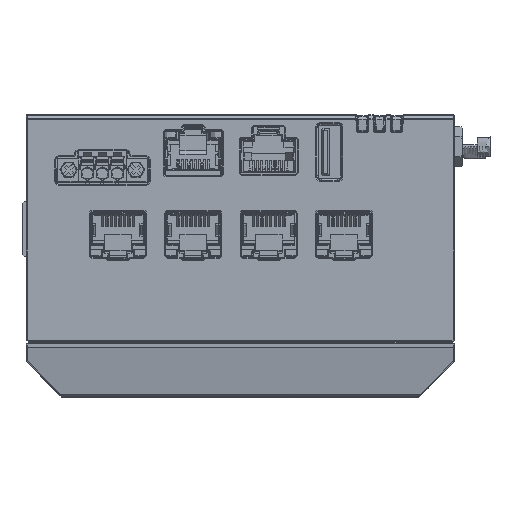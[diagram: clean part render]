
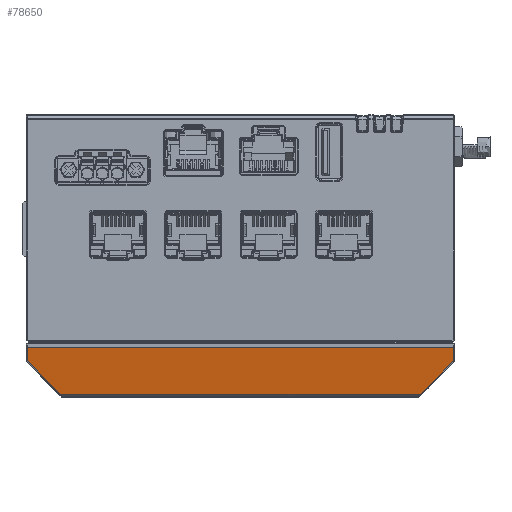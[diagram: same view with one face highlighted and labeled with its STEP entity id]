
A CAD part, top view. The second image highlights one B-rep face of the part: STEP entity #78650.
In plain terms, the highlighted planar face has unit normal (0, -0.171, 0.985).
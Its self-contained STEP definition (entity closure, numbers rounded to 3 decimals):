
#49915=DIRECTION('',(1.,0.,0.));
#49916=VECTOR('',#49915,84.063);
#49917=CARTESIAN_POINT('',(-42.031,-12.22,
28.101));
#49918=LINE('',#49917,#49916);
#59204=DIRECTION('',(0.,0.985,0.171));
#59205=VECTOR('',#59204,3.199);
#59206=CARTESIAN_POINT('',(49.8,-4.451,
29.452));
#59207=LINE('',#59206,#59205);
#59208=DIRECTION('',(0.702,0.702,0.122));
#59209=VECTOR('',#59208,11.069);
#59210=CARTESIAN_POINT('',(42.031,-12.22,
28.101));
#59211=LINE('',#59210,#59209);
#59212=DIRECTION('',(0.702,-0.702,-0.122));
#59213=VECTOR('',#59212,11.069);
#59214=CARTESIAN_POINT('',(-49.8,-4.451,
29.452));
#59215=LINE('',#59214,#59213);
#59216=DIRECTION('',(-1.,0.,0.));
#59217=VECTOR('',#59216,99.6);
#59218=CARTESIAN_POINT('',(49.8,-1.3,
30.));
#59219=LINE('',#59218,#59217);
#59235=DIRECTION('',(0.,-0.985,-0.171));
#59236=VECTOR('',#59235,3.199);
#59237=CARTESIAN_POINT('',(-49.8,-1.3,
30.));
#59238=LINE('',#59237,#59236);
#59470=CARTESIAN_POINT('',(49.8,-1.3,
30.));
#59472=VERTEX_POINT('',#59470);
#59474=CARTESIAN_POINT('',(-49.8,-1.3,
30.));
#59475=VERTEX_POINT('',#59474);
#59488=CARTESIAN_POINT('',(49.8,-4.451,
29.452));
#59489=VERTEX_POINT('',#59488);
#59490=CARTESIAN_POINT('',(42.031,-12.22,
28.101));
#59491=VERTEX_POINT('',#59490);
#59492=CARTESIAN_POINT('',(-42.031,-12.22,
28.101));
#59493=VERTEX_POINT('',#59492);
#59494=CARTESIAN_POINT('',(-49.8,-4.451,
29.452));
#59495=VERTEX_POINT('',#59494);
#78634=CARTESIAN_POINT('',(0.,-6.76,29.05));
#78635=DIRECTION('',(0.,-0.171,0.985));
#78636=DIRECTION('',(0.,-0.985,-0.171));
#78637=AXIS2_PLACEMENT_3D('',#78634,#78635,#78636);
#78638=PLANE('',#78637);
#78639=ORIENTED_EDGE('',*,*,#78617,.F.);
#78640=ORIENTED_EDGE('',*,*,#61471,.F.);
#78641=ORIENTED_EDGE('',*,*,#61570,.F.);
#78643=ORIENTED_EDGE('',*,*,#78642,.F.);
#78645=ORIENTED_EDGE('',*,*,#78644,.F.);
#78647=ORIENTED_EDGE('',*,*,#78646,.F.);
#78648=EDGE_LOOP('',(#78639,#78640,#78641,#78643,#78645,#78647));
#78649=FACE_OUTER_BOUND('',#78648,.F.);
#61471=EDGE_CURVE('',#59491,#59489,#59211,.T.);
#61570=EDGE_CURVE('',#59493,#59491,#49918,.T.);
#78617=EDGE_CURVE('',#59489,#59472,#59207,.T.);
#78642=EDGE_CURVE('',#59495,#59493,#59215,.T.);
#78644=EDGE_CURVE('',#59475,#59495,#59238,.T.);
#78646=EDGE_CURVE('',#59472,#59475,#59219,.T.);
#78650=ADVANCED_FACE('',(#78649),#78638,.T.);
